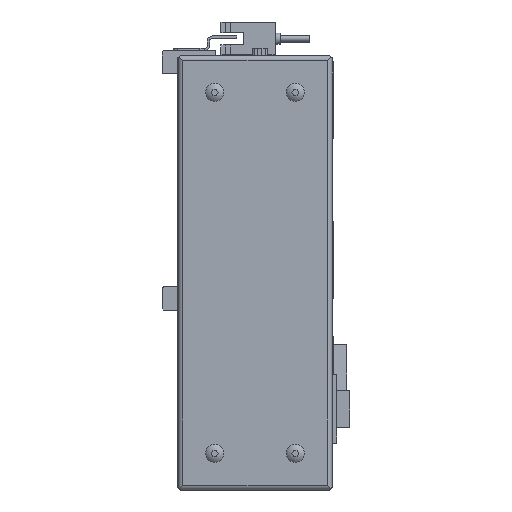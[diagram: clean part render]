
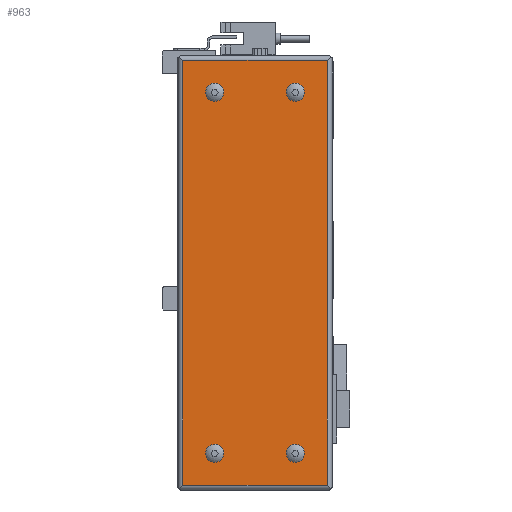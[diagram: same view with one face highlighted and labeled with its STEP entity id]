
A CAD part, left-side view. The second image highlights one B-rep face of the part: STEP entity #963.
In plain terms, the highlighted planar face has unit normal (-1, 0, 0).
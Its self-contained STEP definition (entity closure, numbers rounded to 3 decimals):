
#963 = ADVANCED_FACE( '', ( #2568, #2569, #2570, #2571, #2572 ), #2573, .F. );
#2568 = FACE_BOUND( '', #5097, .T. );
#2569 = FACE_BOUND( '', #5098, .T. );
#2570 = FACE_BOUND( '', #5099, .T. );
#2571 = FACE_BOUND( '', #5100, .T. );
#2572 = FACE_OUTER_BOUND( '', #5101, .T. );
#2573 = PLANE( '', #5102 );
#5097 = EDGE_LOOP( '', ( #7659 ) );
#5098 = EDGE_LOOP( '', ( #7660 ) );
#5099 = EDGE_LOOP( '', ( #7661 ) );
#5100 = EDGE_LOOP( '', ( #7662 ) );
#5101 = EDGE_LOOP( '', ( #7663, #7664, #7665, #7666 ) );
#5102 = AXIS2_PLACEMENT_3D( '', #7667, #7668, #7669 );
#7659 = ORIENTED_EDGE( '', *, *, #14441, .F. );
#7660 = ORIENTED_EDGE( '', *, *, #14442, .F. );
#7661 = ORIENTED_EDGE( '', *, *, #14443, .F. );
#7662 = ORIENTED_EDGE( '', *, *, #14444, .F. );
#7663 = ORIENTED_EDGE( '', *, *, #14445, .F. );
#7664 = ORIENTED_EDGE( '', *, *, #14446, .F. );
#7665 = ORIENTED_EDGE( '', *, *, #14447, .T. );
#7666 = ORIENTED_EDGE( '', *, *, #14448, .T. );
#7667 = CARTESIAN_POINT( '', ( -52., 0., 0. ) );
#7668 = DIRECTION( '', ( 1., 0., 0. ) );
#7669 = DIRECTION( '', ( 0., 0., -1. ) );
#14441 = EDGE_CURVE( '', #17123, #17123, #17124, .F. );
#14442 = EDGE_CURVE( '', #17125, #17125, #17126, .F. );
#14443 = EDGE_CURVE( '', #17127, #17127, #17128, .F. );
#14444 = EDGE_CURVE( '', #17129, #17129, #17130, .F. );
#14445 = EDGE_CURVE( '', #17131, #17132, #17133, .T. );
#14446 = EDGE_CURVE( '', #17134, #17131, #17135, .T. );
#14447 = EDGE_CURVE( '', #17134, #17136, #17137, .T. );
#14448 = EDGE_CURVE( '', #17136, #17132, #17138, .T. );
#17123 = VERTEX_POINT( '', #21105 );
#17124 = CIRCLE( '', #21106, 3.7 );
#17125 = VERTEX_POINT( '', #21107 );
#17126 = CIRCLE( '', #21108, 3.7 );
#17127 = VERTEX_POINT( '', #21109 );
#17128 = CIRCLE( '', #21110, 3.7 );
#17129 = VERTEX_POINT( '', #21111 );
#17130 = CIRCLE( '', #21112, 3.7 );
#17131 = VERTEX_POINT( '', #21113 );
#17132 = VERTEX_POINT( '', #21114 );
#17133 = LINE( '', #21115, #21116 );
#17134 = VERTEX_POINT( '', #21117 );
#17135 = LINE( '', #21118, #21119 );
#17136 = VERTEX_POINT( '', #21120 );
#17137 = LINE( '', #21121, #21122 );
#17138 = LINE( '', #21123, #21124 );
#21105 = CARTESIAN_POINT( '', ( -52., 48.5, -115.2 ) );
#21106 = AXIS2_PLACEMENT_3D( '', #26965, #26966, #26967 );
#21107 = CARTESIAN_POINT( '', ( -52., 15.5, 32.3 ) );
#21108 = AXIS2_PLACEMENT_3D( '', #26968, #26969, #26970 );
#21109 = CARTESIAN_POINT( '', ( -52., 15.5, -115.2 ) );
#21110 = AXIS2_PLACEMENT_3D( '', #26971, #26972, #26973 );
#21111 = CARTESIAN_POINT( '', ( -52., 48.5, 32.3 ) );
#21112 = AXIS2_PLACEMENT_3D( '', #26974, #26975, #26976 );
#21113 = CARTESIAN_POINT( '', ( -52., 2.5, 49. ) );
#21114 = CARTESIAN_POINT( '', ( -52., 2.5, -124.5 ) );
#21115 = CARTESIAN_POINT( '', ( -52., 2.5, 177.5 ) );
#21116 = VECTOR( '', #26977, 1000. );
#21117 = CARTESIAN_POINT( '', ( -52., 61.5, 49. ) );
#21118 = CARTESIAN_POINT( '', ( -52., 177.5, 49. ) );
#21119 = VECTOR( '', #26978, 1000. );
#21120 = CARTESIAN_POINT( '', ( -52., 61.5, -124.5 ) );
#21121 = CARTESIAN_POINT( '', ( -52., 61.5, 177.5 ) );
#21122 = VECTOR( '', #26979, 1000. );
#21123 = CARTESIAN_POINT( '', ( -52., 177.5, -124.5 ) );
#21124 = VECTOR( '', #26980, 1000. );
#26965 = CARTESIAN_POINT( '', ( -52., 48.5, -111.5 ) );
#26966 = DIRECTION( '', ( 1., 0., 0. ) );
#26967 = DIRECTION( '', ( 0., 0., -1. ) );
#26968 = CARTESIAN_POINT( '', ( -52., 15.5, 36. ) );
#26969 = DIRECTION( '', ( 1., 0., 0. ) );
#26970 = DIRECTION( '', ( 0., 0., -1. ) );
#26971 = CARTESIAN_POINT( '', ( -52., 15.5, -111.5 ) );
#26972 = DIRECTION( '', ( 1., 0., 0. ) );
#26973 = DIRECTION( '', ( 0., 0., -1. ) );
#26974 = CARTESIAN_POINT( '', ( -52., 48.5, 36. ) );
#26975 = DIRECTION( '', ( 1., 0., 0. ) );
#26976 = DIRECTION( '', ( 0., 0., -1. ) );
#26977 = DIRECTION( '', ( 0., 0., -1. ) );
#26978 = DIRECTION( '', ( 0., -1., 0. ) );
#26979 = DIRECTION( '', ( 0., 0., -1. ) );
#26980 = DIRECTION( '', ( 0., -1., 0. ) );
